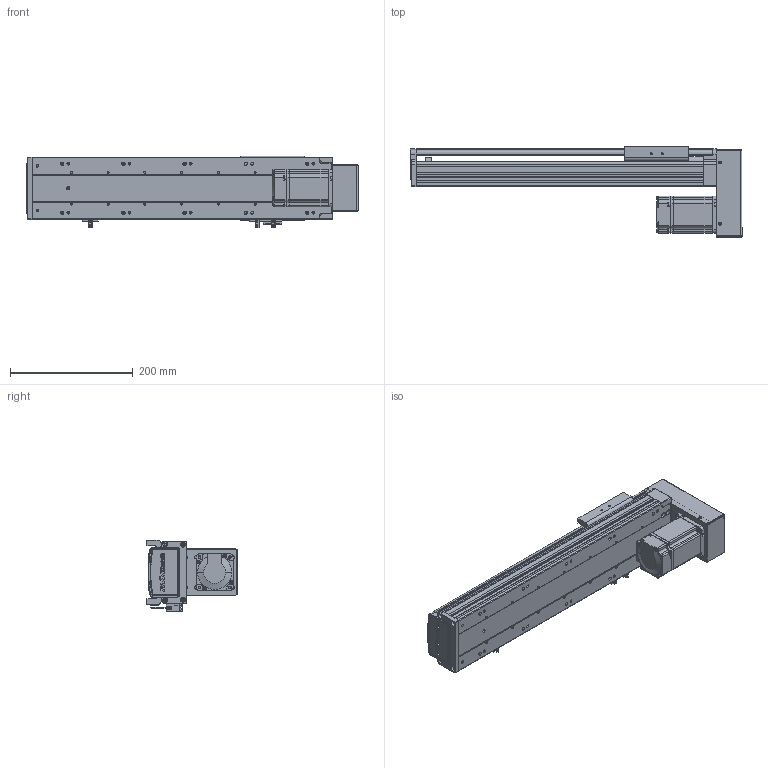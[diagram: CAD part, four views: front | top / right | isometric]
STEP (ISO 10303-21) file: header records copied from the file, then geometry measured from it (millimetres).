
FILE_DESCRIPTION (( 'STEP AP203' ), '1' );
FILE_NAME ('RY100S-L1620-300-BK(15双轨).SLDASM_300.step', '2021-02-20T08:22:33', ( '盈信电脑' ), ( '东莞市道滘镇水果街19号' ), 'SwSTEP 2.0', 'SolidWorks 2012', '' );
FILE_SCHEMA (( 'CONFIG_CONTROL_DESIGN' ));
Length unit declared in the file: millimetre
Products named in the file (20): RY100S-狟殏萇儂郪; RY100S下折电机安装板（15双轨）; RY100S-L1620-300-BK(15邧寢).SLDASM_300; 1; 肮祭湍5M遵15笚酗260; 侂狟200W萇儂; 3M30喘15遵; RY80肮祭湍覃踡啣; RY80肮祭湍芢雄輸; RY100S狟殏萇儂欶(15邧寢); 滅袉蝶18-24; RY100綴裔啣; RY100S-絳寢EGH15-350-LK(腴郪15邧寢)_300; RY100S转折电机端支撑座(15双轨); 覜茼ん672; RY100S铝滑块（15双轨单滑块）底组装导轨; 滅袉蝶18-10; RY100俋离覜茼え; RY100S-350-LK型材底座(低组15双轨)_300; RY100S-300-LK转折型材上盖(15双轨)
Assembly tree (22 placements, depth 4):
  RY100S-L1620-300-BK(15邧寢).SLDASM_300
    RY100S-350-LK型材底座(低组15双轨)_300
    RY100S-300-LK转折型材上盖(15双轨)
    RY100S铝滑块（15双轨单滑块）底组装导轨
    覜茼ん672  x3
    滅袉蝶18-10
    RY100俋离覜茼え
    RY100S转折电机端支撑座(15双轨)
    滅袉蝶18-24
    RY100綴裔啣
    RY100S-絳寢EGH15-350-LK(腴郪15邧寢)_300
    RY100S-狟殏萇儂郪
      RY80肮祭湍芢雄輸  x2
      RY100S狟殏萇儂欶(15邧寢)
      3M30喘15遵
      RY80肮祭湍覃踡啣
      侂狟200W萇儂
        1
      肮祭湍5M遵15笚酗260
      RY100S下折电机安装板（15双轨）
Bounding box: 542 x 147 x 117.2 mm (x, y, z)
Volume: 1622999.5 mm3; surface area: 602678.7 mm2
Topology: 20 solids, 20 shells, 2680 faces, 7247 edges, 4656 vertices
Faces by surface type: plane 1343, cylinder 1100, cone 149, bspline 88
Entity records: 85380 total; most frequent: CARTESIAN_POINT 20387, ORIENTED_EDGE 13198, DIRECTION 13056, EDGE_CURVE 6599, AXIS2_PLACEMENT_3D 4545, VERTEX_POINT 4292, VECTOR 3966, LINE 3966
